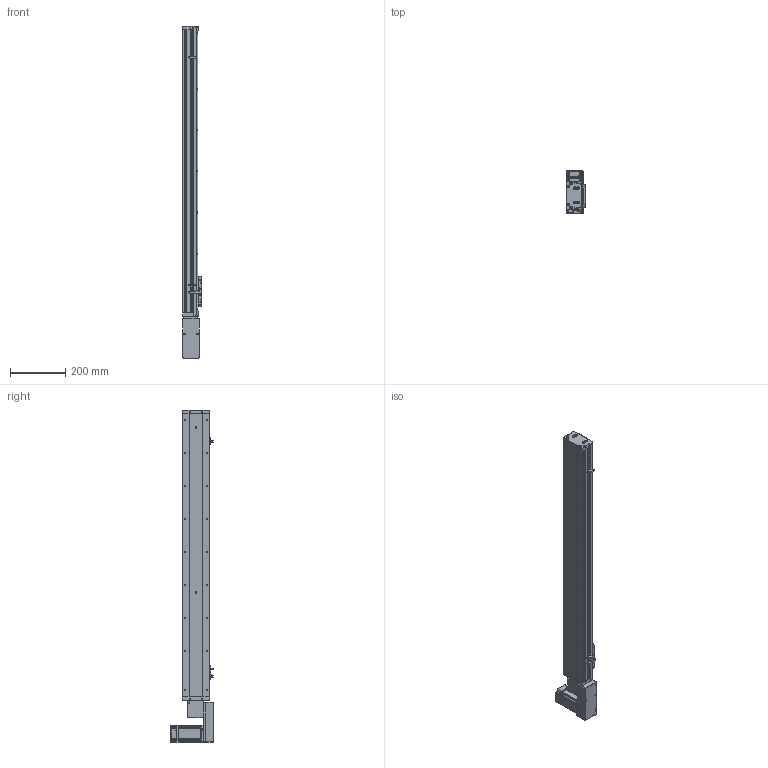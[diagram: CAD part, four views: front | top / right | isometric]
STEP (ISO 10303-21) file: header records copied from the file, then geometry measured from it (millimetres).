
FILE_DESCRIPTION (( 'STEP AP214' ), '1' );
FILE_NAME ('KSD100B-S850-MRB-CR.STEP', '2019-11-13T06:13:46', ( '微软用户' ), ( '微软中国' ), 'SwSTEP 2.0', 'SolidWorks 2014', '' );
FILE_SCHEMA (( 'AUTOMOTIVE_DESIGN' ));
Length unit declared in the file: millimetre
Products named in the file (15): 100宽马达安装板连板上下折丝杆同步带; U倰嫖萇EEㄜSX672; 感应片100宽全封闭; 100宽马达安装板同步带右; 100遵鎮湛假蚾啣蜊; 100宽端板同步带全封闭; 100宽滚珠螺姆安装板1防护罩; 100宽滚珠螺姆安装板1; 100遵裔啣揤啣; 100遵裔啣850俴最; 100宽侧板850行程同步带; 悵誘欶奻狟殏; MHMD042G1CA_2_03; 100宽底板全封闭850行程同步带; KSD100B-S850-MRB-CR
Assembly tree (18 placements, depth 2):
  KSD100B-S850-MRB-CR
    100宽底板全封闭850行程同步带
    100宽侧板850行程同步带  x2
    100遵裔啣850俴最
    100遵裔啣揤啣  x2
    100宽滚珠螺姆安装板1
    100宽滚珠螺姆安装板1防护罩
    100宽端板同步带全封闭
    100遵鎮湛假蚾啣蜊
    100宽马达安装板同步带右
    感应片100宽全封闭
    U倰嫖萇EEㄜSX672  x3
    100宽马达安装板连板上下折丝杆同步带
    悵誘欶奻狟殏
    MHMD042G1CA_2_03
Bounding box: 70 x 156.2 x 1207 mm (x, y, z)
Volume: 2235846.4 mm3; surface area: 997819 mm2
Topology: 17 solids, 18 shells, 1805 faces, 5034 edges, 3219 vertices
Faces by surface type: cylinder 813, plane 737, cone 235, bspline 20
Entity records: 63850 total; most frequent: CARTESIAN_POINT 9774, DIRECTION 8730, ORIENTED_EDGE 8052, EDGE_CURVE 4098, AXIS2_PLACEMENT_3D 3161, VERTEX_POINT 2717, LINE 2408, VECTOR 2408
